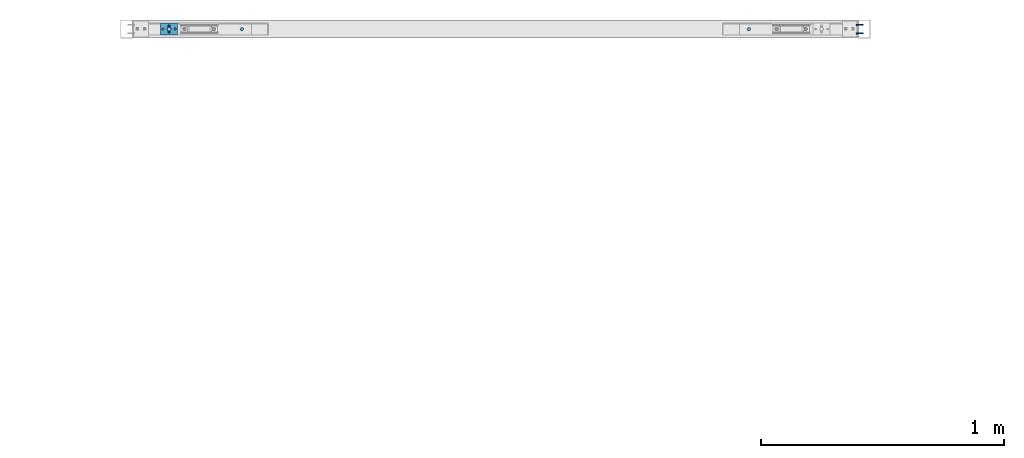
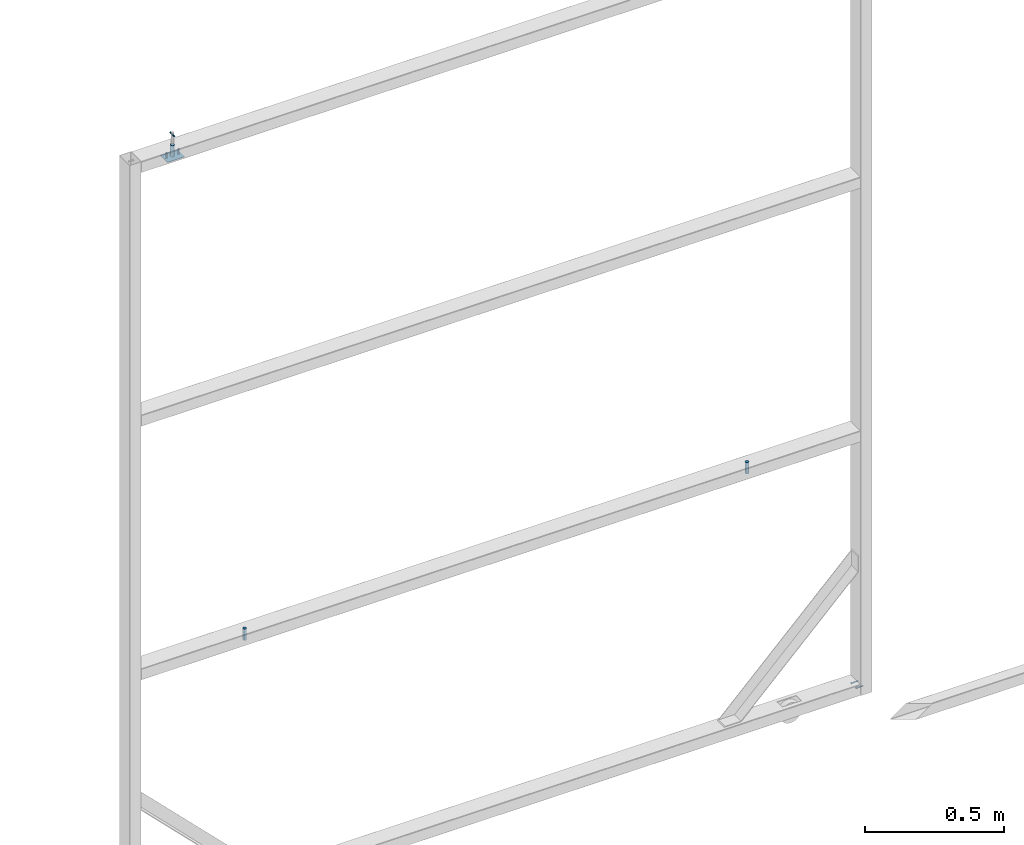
# One storey, part 74 of 91: 6 mechanical fasteners, 2 discrete accessories, 1 element without a shape of its own.
"""IFC2X3 building model written with IfcOpenShell, lengths in millimetres."""

from ifc_helpers import new_model, si_unit, frame, origin_with_axes, origin_2d_with_axis, place, context, subcontext, project, spatial, polyline, circle, outline, extrude, source, transform, mapped, material, type_object, element, aggregate, save


model = new_model("IFC2X3")

# Units and contexts
model_context = context("Model", 3, precision=1e-05, world=origin_with_axes())
body_context = subcontext(model_context, "Body", "Model", "MODEL_VIEW")
ifc_project = project(units=[si_unit("LENGTHUNIT", "METRE", prefix="MILLI"), si_unit("AREAUNIT", "SQUARE_METRE"), si_unit("VOLUMEUNIT", "CUBIC_METRE"), si_unit("MASSUNIT", "GRAM", prefix="KILO"), si_unit("TIMEUNIT", "SECOND"), si_unit("PLANEANGLEUNIT", "RADIAN"), si_unit("SOLIDANGLEUNIT", "STERADIAN"), si_unit("THERMODYNAMICTEMPERATUREUNIT", "DEGREE_CELSIUS"), si_unit("LUMINOUSINTENSITYUNIT", "LUMEN")], contexts=[model_context])

# Site, building, storey
site_placement = place(None, origin_with_axes())
site = spatial("IfcSite", under=ifc_project, at=site_placement, Name="Undefined", CompositionType="ELEMENT")
building_placement = place(site_placement, origin_with_axes())
building = spatial("IfcBuilding", under=site, at=building_placement, Name="Undefined", CompositionType="ELEMENT")
storey_placement = place(building_placement, origin_with_axes())
storey = spatial("IfcBuildingStorey", under=building, at=storey_placement, Name="Undefined", CompositionType="ELEMENT", Elevation=0.0)

# Assembly, mechanical fasteners, discrete accessories
assembly_placement = place(storey_placement, origin_with_axes())
assembly = element("IfcElementAssembly", 1, at=assembly_placement, inside=storey, Name="Sliding Door Beam", AssemblyPlace="NOTDEFINED", PredefinedType="RIGID_FRAME")
ifc_material_1 = material(Name="TEK_11TPIM")
discrete_accessory_type_1 = type_object("IfcDiscreteAccessoryType", Name="Bolt assembly")
shared_shape_1 = source(origin_with_axes(), body_context, "Body", "SweptSolid", [
    extrude(circle(Radius=3.0, at=origin_2d_with_axis()), frame((0.0, 6.10000000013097, 0.0), z_axis=(0.0, 1.0, 0.0), x_axis=(1.0, 0.0, 0.0)), (0.0, 0.0, 1.0), 3.0),
    extrude(circle(Radius=3.0, at=origin_2d_with_axis()), frame((0.0, 8.9, 0.0), z_axis=(0.0, 1.0, 0.0), x_axis=(1.0, 0.0, 0.0)), (0.0, 0.0, 1.0), 2.1),
    extrude(outline(polyline([(4.61880215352, 0.0), (2.30940107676, 4.00000000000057), (-2.30940107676, 4.00000000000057), (-4.61880215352, 0.0), (-2.30940107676, -4.00000000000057), (2.30940107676, -4.00000000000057), (4.61880215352, 0.0)])), frame((0.0, 1.00000000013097, 0.0), z_axis=(0.0, 1.0, 0.0), x_axis=(1.0, 0.0, 0.0)), (0.0, 0.0, 1.0), 5.0),
    extrude(circle(Radius=3.0, at=origin_2d_with_axis()), frame((0.0, 6.00000000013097, 0.0), z_axis=(0.0, 1.0, 0.0), x_axis=(1.0, 0.0, 0.0)), (0.0, 0.0, 1.0), 25.0),
    extrude(circle(Radius=3.0, at=origin_2d_with_axis()), frame((0.0, 11.0, 0.0), z_axis=(0.0, 1.0, 0.0), x_axis=(1.0, 0.0, 0.0)), (0.0, 0.0, 1.0), 0.1),
    extrude(outline(polyline([(3.46410161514, 0.0), (1.73205080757, 3.00000000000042), (-1.73205080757, 3.00000000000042), (-3.46410161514, 0.0), (-1.73205080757, -3.00000000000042), (1.73205080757, -3.00000000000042), (3.46410161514, 0.0)])), frame((0.0, 11.1000000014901, 0.0), z_axis=(0.0, 1.0, 0.0), x_axis=(1.0, 0.0, 0.0)), (0.0, 0.0, 1.0), 0.1),
])
mechanical_fastener_1_placement = place(assembly_placement, frame((-110610.29, 93380.0, 8.0), z_axis=(0.0, -1.0, 0.0), x_axis=(0.0, 0.0, -1.0)))
mechanical_fastener_1 = element("IfcMechanicalFastener", 2, at=mechanical_fastener_1_placement, type_object=discrete_accessory_type_1, material=ifc_material_1, Name="Bolt assembly", NominalDiameter=6.0, NominalLength=25.0, context=body_context, shape_type="MappedRepresentation", body=[
    mapped(shared_shape_1, transform((0.0, 0.0, -17.5))),
    mapped(shared_shape_1, transform((0.0, 0.0, 17.5))),
])
ifc_material_2 = material(Name="STEEL/250")
discrete_accessory_type_2 = type_object("IfcDiscreteAccessoryType", Name="PLATE")
discrete_accessory_1_placement = place(assembly_placement, frame((-113473.79, 93405.0, 3324.5), z_axis=(0.0, 0.0, 1.0), x_axis=(0.0, -1.0, 0.0)))
discrete_accessory_1 = element("IfcDiscreteAccessory", 3, at=discrete_accessory_1_placement, type_object=discrete_accessory_type_2, material=ifc_material_2, Name="PLATE", ObjectType="PLT3*50", context=body_context, shape_type="SweptSolid", body=[
    extrude(outline(polyline([(0.0, 0.0), (50.0, 0.0), (50.0, 70.0), (0.0, 70.0), (0.0, 0.0)])), frame((0.0, 0.0, -1.5), z_axis=(0.0, 0.0, 1.0), x_axis=(1.0, 0.0, 0.0)), (0.0, 0.0, 1.0), 3.0),
])
ifc_material_3 = material(Name="8.8S")
shared_shape_2 = source(origin_with_axes(), body_context, "Body", "SweptSolid", [
    extrude(circle(Radius=7.0, at=origin_2d_with_axis()), frame((0.0, 0.0033333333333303, 0.0), z_axis=(0.0, 1.0, 0.0), x_axis=(1.0, 0.0, 0.0)), (0.0, 0.0, 1.0), 50.1),
])
mechanical_fastener_2_placement = place(assembly_placement, frame((-111051.293767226, 93380.0, 1147.34), z_axis=(1.0, 0.0, 0.0), x_axis=(0.0, -1.0, 0.0)))
mechanical_fastener_2 = element("IfcMechanicalFastener", 4, at=mechanical_fastener_2_placement, type_object=discrete_accessory_type_1, material=ifc_material_3, Name="Bolt assembly", NominalDiameter=12.0, NominalLength=49.9966659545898, context=body_context, shape_type="MappedRepresentation", body=[
    mapped(shared_shape_2, transform((0.0, 0.0, 0.0))),
])
mechanical_fastener_3_placement = place(assembly_placement, frame((-113138.786232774, 93380.0, 1147.34), z_axis=(1.0, 0.0, 0.0), x_axis=(0.0, -1.0, 0.0)))
mechanical_fastener_3 = element("IfcMechanicalFastener", 5, at=mechanical_fastener_3_placement, type_object=discrete_accessory_type_1, material=ifc_material_3, Name="Bolt assembly", NominalDiameter=12.0, NominalLength=49.9966659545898, context=body_context, shape_type="MappedRepresentation", body=[
    mapped(shared_shape_2, transform((0.0, 0.0, 0.0))),
])
shared_shape_3 = source(origin_with_axes(), body_context, "Body", "SweptSolid", [
    extrude(circle(Radius=3.0, at=origin_2d_with_axis()), frame((0.0, 0.0, 0.0), z_axis=(0.0, 1.0, 0.0), x_axis=(1.0, 0.0, 0.0)), (0.0, 0.0, 1.0), 2.1),
    extrude(outline(polyline([(4.61880215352, 0.0), (2.30940107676, 4.00000000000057), (-2.30940107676, 4.00000000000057), (-4.61880215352, 0.0), (-2.30940107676, -4.00000000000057), (2.30940107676, -4.00000000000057), (4.61880215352, 0.0)])), frame((0.0, -5.0, 0.0), z_axis=(0.0, 1.0, 0.0), x_axis=(1.0, 0.0, 0.0)), (0.0, 0.0, 1.0), 5.0),
    extrude(circle(Radius=3.0, at=origin_2d_with_axis()), frame((0.0, 0.0, 0.0), z_axis=(0.0, 1.0, 0.0), x_axis=(1.0, 0.0, 0.0)), (0.0, 0.0, 1.0), 25.0),
    extrude(circle(Radius=3.0, at=origin_2d_with_axis()), frame((0.0, 2.00000000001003, 0.0), z_axis=(0.0, 1.0, 0.0), x_axis=(1.0, 0.0, 0.0)), (0.0, 0.0, 1.0), 0.1),
    extrude(outline(polyline([(3.46410161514, 0.0), (1.73205080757, 3.00000000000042), (-1.73205080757, 3.00000000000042), (-3.46410161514, 0.0), (-1.73205080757, -3.00000000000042), (1.73205080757, -3.00000000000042), (3.46410161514, 0.0)])), frame((0.0, 2.10000000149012, 0.0), z_axis=(0.0, 1.0, 0.0), x_axis=(1.0, 0.0, 0.0)), (0.0, 0.0, 1.0), 0.1),
])
mechanical_fastener_4_placement = place(assembly_placement, frame((-113413.79, 93380.0, 3326.0), z_axis=(0.0, 1.0, 0.0), x_axis=(-1.0, 0.0, 0.0)))
mechanical_fastener_4 = element("IfcMechanicalFastener", 6, at=mechanical_fastener_4_placement, type_object=discrete_accessory_type_1, material=ifc_material_1, Name="Bolt assembly", NominalDiameter=6.0, NominalLength=25.0, context=body_context, shape_type="MappedRepresentation", body=[
    mapped(shared_shape_3, transform((0.0, 0.0, 0.0))),
])
mechanical_fastener_5_placement = place(assembly_placement, frame((-113463.79, 93380.0, 3326.0), z_axis=(0.0, -1.0, 0.0), x_axis=(1.0, 0.0, 0.0)))
mechanical_fastener_5 = element("IfcMechanicalFastener", 7, at=mechanical_fastener_5_placement, type_object=discrete_accessory_type_1, material=ifc_material_1, Name="Bolt assembly", NominalDiameter=6.0, NominalLength=25.0, context=body_context, shape_type="MappedRepresentation", body=[
    mapped(shared_shape_3, transform((0.0, 0.0, 0.0))),
])
shared_shape_4 = source(origin_with_axes(), body_context, "Body", "SweptSolid", [
    extrude(circle(Radius=8.0, at=origin_2d_with_axis()), frame((0.0, 0.0, 0.0), z_axis=(0.0, 1.0, 0.0), x_axis=(1.0, 0.0, 0.0)), (0.0, 0.0, 1.0), 50.1),
])
mechanical_fastener_6_placement = place(assembly_placement, frame((-113438.79, 93380.0, 3326.0), z_axis=(0.0, -1.0, 0.0), x_axis=(1.0, 0.0, 0.0)))
mechanical_fastener_6 = element("IfcMechanicalFastener", 8, at=mechanical_fastener_6_placement, type_object=discrete_accessory_type_1, material=ifc_material_3, Name="Bolt assembly", NominalDiameter=10.0, NominalLength=50.0, context=body_context, shape_type="MappedRepresentation", body=[
    mapped(shared_shape_4, transform((0.0, 0.0, 0.0))),
])
discrete_accessory_type_3 = type_object("IfcDiscreteAccessoryType", Name="SPRING PIN")
discrete_accessory_2_placement = place(assembly_placement, frame((-113438.79, 93365.0, 3421.0), z_axis=(1.0, 0.0, 0.0), x_axis=(0.0, 1.0, 0.0)))
discrete_accessory_2 = element("IfcDiscreteAccessory", 9, at=discrete_accessory_2_placement, type_object=discrete_accessory_type_3, material=ifc_material_2, Name="SPRING PIN", ObjectType="D6", context=body_context, shape_type="SweptSolid", body=[
    extrude(circle(Radius=3.0, at=origin_2d_with_axis()), frame((30.0, 0.0, 0.0), z_axis=(-1.0, 0.0, 0.0), x_axis=(0.0, -1.0, 0.0)), (0.0, 0.0, 1.0), 30.0),
])
aggregate(assembly, [mechanical_fastener_1, mechanical_fastener_2, mechanical_fastener_3, mechanical_fastener_4, mechanical_fastener_5, mechanical_fastener_6, discrete_accessory_2, discrete_accessory_1])

save(model, "model.ifc")
